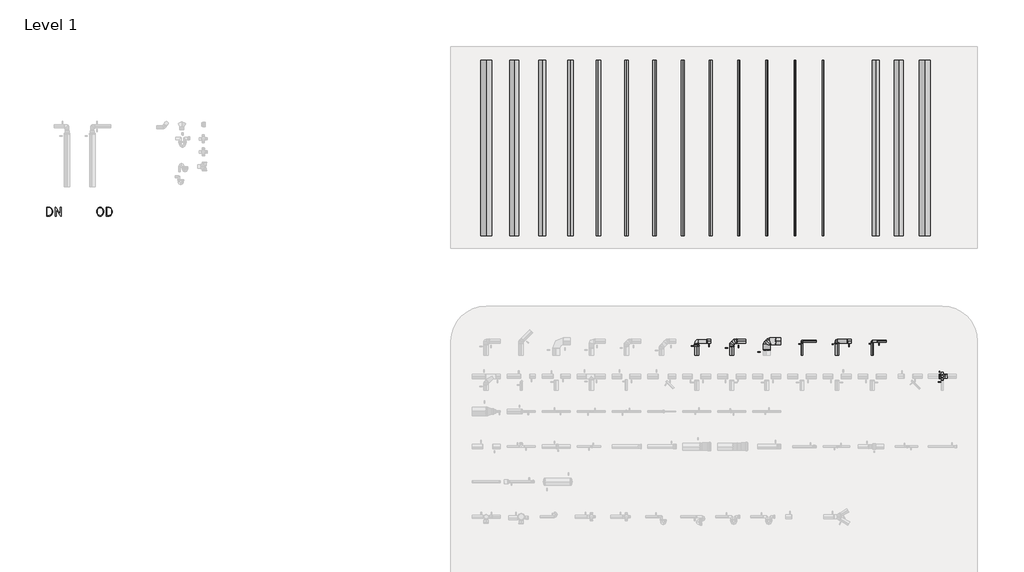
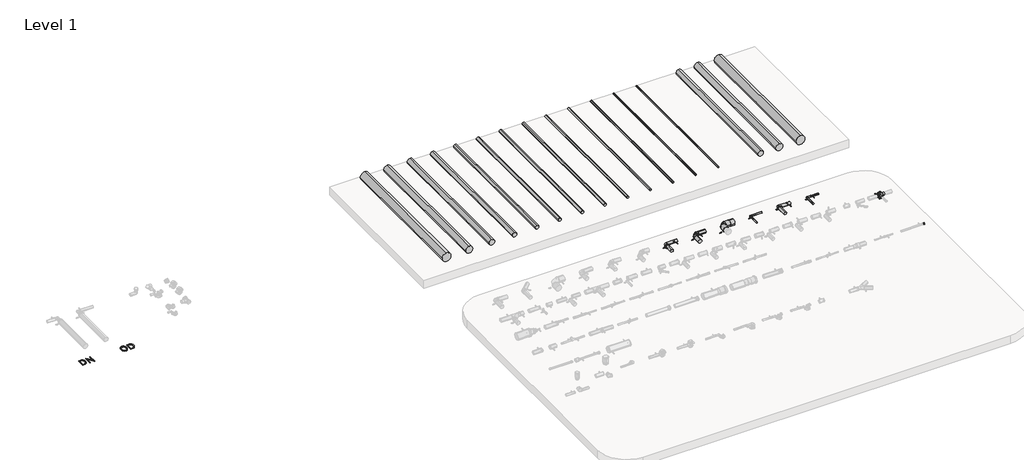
# One storey, part 6 of 6: 27 pipe segments, 23 pipe fittings, 2 proxies.
"""IFC4 building model written with IfcOpenShell, lengths in millimetres."""

from ifc_helpers import new_model, si_unit, point, frame, frame_2d, origin, origin_with_axes, place, context, project, spatial, polyline, circle_curve, trimmed, segment, composite_curve, outline, extrude, transform, mapped, element, save
from components import pipe_fitting_81bb528a, pipe_fitting_5bbf7105, var_f855ee73, var_2f964d50, var_6f643ae4, var_6e64f8e0, var_6ef94224, nested_do_not_use_0367c6a2, nested_do_not_use_355ab53d, nested_do_not_use_269007d1, nested_do_not_use_f1a46828, nested_do_not_use_c96243a7, nested_do_not_use_821c716b, welded_7e5780db, welded_b2ff7ccb, welded_75b1cb19, welded_dc74d5dd, welded_63566782, welded_ac007b25

model = new_model("IFC4")

# Units and contexts
model_context = context("Model", 3, world=origin())
ifc_project = project(units=[si_unit("LENGTHUNIT", "METRE", prefix="MILLI")], contexts=[model_context])

# Site, building, storey
site = spatial("IfcSite", under=ifc_project)
building = spatial("IfcBuilding", under=site)
storey = spatial("IfcBuildingStorey", under=building, Name="Level 1", Elevation=0.0)

# Proxies
placement = place(None, origin())
element("IfcBuildingElementProxy", 1, Name="250mm", ObjectType="250mm", at=placement, inside=storey, context=model_context, shape_type="SweptSolid", body=[
    extrude(outline(polyline([(-9692.1749272, 23938.8206285), (-9715.6755281, 23879.4741742), (-9740.4404019, 23854.6349314), (-9776.6581002, 23842.364048), (-9863.521081, 23842.364048), (-9863.521081, 24089.864048), (-9776.0631483, 24089.864048), (-9738.8042841, 24077.2956886), (-9714.8574692, 24052.9770287), (-9692.1749272, 23996.3822271), (-9692.1749272, 23938.8206285)]), holes=[polyline([(-9715.9730041, 23939.3412114), (-9715.9730041, 23996.0847511), (-9726.9052457, 24029.1045828), (-9737.8374873, 24050.3741141), (-9747.282349, 24060.1164518), (-9779.0379079, 24070.8255864), (-9839.7230041, 24070.8255864), (-9839.7230041, 23861.4025095), (-9779.7072288, 23861.4025095), (-9748.9928358, 23871.7397992), (-9738.8042841, 23881.9283509), (-9727.2027216, 23904.4621549), (-9715.9730041, 23939.3412114)])]), origin_with_axes(), (0.0, 0.0, 1.0), 20.0),
    extrude(outline(polyline([(-9444.6749272, 23842.364048), (-9455.8302757, 23842.364048), (-9592.2230041, 24040.7061453), (-9592.2230041, 23842.364048), (-9616.021081, 23842.364048), (-9616.021081, 24089.864048), (-9603.6758286, 24089.864048), (-9468.4730041, 23896.281566), (-9468.4730041, 24089.864048), (-9444.6749272, 24089.864048), (-9444.6749272, 23842.364048)])), origin_with_axes(), (0.0, 0.0, 1.0), 20.0),
])
element("IfcBuildingElementProxy", 2, Name="250mm", ObjectType="250mm", at=placement, inside=storey, context=model_context, shape_type="SweptSolid", body=[
    extrude(outline(polyline([(-8237.896081, 23939.2668424), (-8249.8694885, 23903.792834), (-8261.8428959, 23879.0279602), (-8285.9384488, 23854.8580384), (-8311.1495365, 23842.364048), (-8360.0099632, 23842.364048), (-8384.997944, 23854.7836694), (-8409.3909728, 23879.1023292), (-8421.1412733, 23903.792834), (-8433.0403118, 23939.0437355), (-8433.0403118, 23996.3822271), (-8421.3643803, 24030.0713797), (-8410.2090317, 24053.2745047), (-8386.8571687, 24076.9238436), (-8360.8280221, 24089.864048), (-8310.2571086, 24089.864048), (-8284.227962, 24076.9982126), (-8260.876099, 24053.2745047), (-8249.5720125, 24030.0713797), (-8237.896081, 23996.1591201), (-8237.896081, 23939.2668424)]), holes=[polyline([(-8261.6941579, 23937.8538316), (-8261.6941579, 23993.5562054), (-8272.4776615, 24025.3861333), (-8293.8959308, 24056.5467403), (-8325.1309067, 24066.809661), (-8345.954224, 24066.809661), (-8377.114831, 24056.5467403), (-8398.4587312, 24025.2373953), (-8409.2422349, 23993.7793124), (-8409.2422349, 23937.6307247), (-8397.9381483, 23903.718465), (-8375.6274512, 23871.4423232), (-8345.1361651, 23861.4025095), (-8323.122944, 23861.4025095), (-8295.4576796, 23871.3679542), (-8272.8495065, 23903.792834), (-8261.6941579, 23937.8538316)])]), origin_with_axes(), (0.0, 0.0, 1.0), 20.0),
    extrude(outline(polyline([(-7990.396081, 23938.8206285), (-8013.896682, 23879.4741742), (-8038.6615558, 23854.6349314), (-8074.8792541, 23842.364048), (-8161.7422349, 23842.364048), (-8161.7422349, 24089.864048), (-8074.2843022, 24089.864048), (-8037.025438, 24077.2956886), (-8013.0786231, 24052.9770287), (-7990.396081, 23996.3822271), (-7990.396081, 23938.8206285)]), holes=[polyline([(-8014.1941579, 23939.3412114), (-8014.1941579, 23996.0847511), (-8025.1263995, 24029.1045828), (-8036.0586411, 24050.3741141), (-8045.5035029, 24060.1164518), (-8077.2590618, 24070.8255864), (-8137.9441579, 24070.8255864), (-8137.9441579, 23861.4025095), (-8077.9283827, 23861.4025095), (-8047.2139897, 23871.7397992), (-8037.025438, 23881.9283509), (-8025.4238755, 23904.4621549), (-8014.1941579, 23939.3412114)])]), origin_with_axes(), (0.0, 0.0, 1.0), 20.0),
])

# Pipe fittings
pipe_fitting_shape = pipe_fitting_81bb528a(model_context)
element("IfcPipeFitting", 3, ObjectType="NLRS_52_PIF_UN_HDPE weld_Akatherm : ringseal or non-welded", at=placement, inside=storey, context=model_context, shape_type="MappedRepresentation", body=[
    mapped(pipe_fitting_shape, transform((12659.9781064, 20232.3274824, 200.0), x_axis=(0.0, -1.0, 0.0), y_axis=(1.0, 0.0, 0.0), z_axis=(0.0, 0.0, 1.0))),
])
element("IfcPipeFitting", 4, ObjectType="NLRS_52_PIF_UN_HDPE weld_Akatherm : ringseal or non-welded", at=placement, inside=storey, context=model_context, shape_type="MappedRepresentation", body=[
    mapped(pipe_fitting_shape, transform((15623.0781064, 19273.6274824, 200.0), x_axis=(-1.0, 0.0, 0.0), y_axis=(0.0, -1.0, 0.0), z_axis=(0.0, 0.0, 1.0))),
])
pipe_fitting_2_shape = pipe_fitting_5bbf7105(model_context)
element("IfcPipeFitting", 5, ObjectType="NLRS_52_PIF_UN_HDPE weld_Akatherm : ringseal or non-welded", at=placement, inside=storey, context=model_context, shape_type="MappedRepresentation", body=[
    mapped(pipe_fitting_2_shape, transform((13659.9781064, 20245.1274824, 200.0), x_axis=(0.0, -1.0, 0.0), y_axis=(1.0, 0.0, 0.0), z_axis=(0.0, 0.0, 1.0))),
])
var_shape = var_f855ee73(model_context)
element("IfcPipeFitting", 6, ObjectType="NLRS_52_PIF_UN_HDPE 4-way riser_Akatherm : Var.", at=placement, inside=storey, context=model_context, shape_type="MappedRepresentation", body=[
    mapped(var_shape, transform((15659.9781064, 19273.6274824, 200.0), x_axis=(-1.0, 0.0, 0.0), y_axis=(0.0, -1.0, 0.0), z_axis=(0.0, 0.0, 1.0))),
])
var_2_shape = var_2f964d50(model_context)
element("IfcPipeFitting", 7, ObjectType="NLRS_52_PIF_UN_HDPE assembled elbow 2x 45º_Akatherm : Var.", at=placement, inside=storey, context=model_context, shape_type="MappedRepresentation", body=[
    mapped(var_2_shape, transform((10659.9781064, 20273.6274824, 200.0), x_axis=(-1.0, 0.0, 0.0), y_axis=(0.0, -1.0, 0.0), z_axis=(0.0, 0.0, 1.0))),
])
var_3_shape = var_6f643ae4(model_context)
element("IfcPipeFitting", 8, ObjectType="NLRS_52_PIF_UN_HDPE floor lavatory bend_Akatherm : Var.", at=placement, inside=storey, context=model_context, shape_type="MappedRepresentation", body=[
    mapped(var_3_shape, transform((8659.9781064, 20273.6274824, 200.0), x_axis=(-1.0, 0.0, 0.0), y_axis=(0.0, -1.0, 0.0), z_axis=(0.0, 0.0, 1.0))),
])
var_4_shape = var_6e64f8e0(model_context)
element("IfcPipeFitting", 9, ObjectType="NLRS_52_PIF_UN_HDPE wall lavatory bend_Akatherm : Var.", at=placement, inside=storey, context=model_context, shape_type="MappedRepresentation", body=[
    mapped(var_4_shape, transform((12659.9781064, 20273.6274824, 200.0), x_axis=(-1.0, 0.0, 0.0), y_axis=(0.0, -1.0, 0.0), z_axis=(0.0, 0.0, 1.0))),
])
var_5_shape = var_6ef94224(model_context)
element("IfcPipeFitting", 10, ObjectType="NLRS_52_PIF_UN_HDPE wall urinal bend_Akatherm : Var.", at=placement, inside=storey, context=model_context, shape_type="MappedRepresentation", body=[
    mapped(var_5_shape, transform((13659.9781064, 20273.6274824, 200.0), x_axis=(-1.0, 0.0, 0.0), y_axis=(0.0, -1.0, 0.0), z_axis=(0.0, 0.0, 1.0))),
])
nested_do_not_use_shape = nested_do_not_use_0367c6a2(model_context)
element("IfcPipeFitting", 11, ObjectType="NLRS_52_PIF_UN_HDPE elbow for bend assembly -SH_Akatherm : nested, do not use", at=placement, inside=storey, context=model_context, shape_type="MappedRepresentation", body=[
    mapped(nested_do_not_use_shape, transform((9745.962291, 20273.6274824, 200.0), x_axis=(-1.0, 0.0, 0.0), y_axis=(0.0, -1.0, 0.0), z_axis=(0.0, 0.0, 1.0))),
])
nested_do_not_use_2_shape = nested_do_not_use_355ab53d(model_context)
element("IfcPipeFitting", 12, ObjectType="NLRS_52_PIF_UN_HDPE elbow for bend assembly -SH_Akatherm : nested, do not use", at=placement, inside=storey, context=model_context, shape_type="MappedRepresentation", body=[
    mapped(nested_do_not_use_2_shape, transform((9659.9781064, 20187.6432978, 200.0), x_axis=(0.0, 1.0, 0.0), y_axis=(-1.0, 0.0, 0.0), z_axis=(0.0, 0.0, 1.0))),
])
nested_do_not_use_3_shape = nested_do_not_use_269007d1(model_context)
element("IfcPipeFitting", 13, ObjectType="NLRS_52_PIF_UN_HDPE rubber sleeve -SH_Akatherm : nested, do not use", at=placement, inside=storey, context=model_context, shape_type="MappedRepresentation", body=[
    mapped(nested_do_not_use_3_shape, transform((11659.9781064, 20235.6274824, 200.0), x_axis=(0.0, -1.0000000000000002, 0.0), y_axis=(1.0000000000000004, 0.0, 0.0), z_axis=(0.0, 0.0, 1.0000000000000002))),
])
nested_do_not_use_4_shape = nested_do_not_use_f1a46828(model_context)
element("IfcPipeFitting", 14, ObjectType="NLRS_52_PIF_UN_HDPE trap connecting bend -SH_Akatherm : nested, do not use", at=placement, inside=storey, context=model_context, shape_type="MappedRepresentation", body=[
    mapped(nested_do_not_use_4_shape, transform((11659.9781064, 20273.6274824, 200.0), x_axis=(-1.0, 0.0, 0.0), y_axis=(0.0, -1.0, 0.0), z_axis=(0.0, 0.0, 1.0))),
])
nested_do_not_use_5_shape = nested_do_not_use_c96243a7(model_context)
element("IfcPipeFitting", 15, ObjectType="NLRS_52_PIF_UN_HDPE protective cap for plugin socket -SH_Akatherm : nested, do not use", at=placement, inside=storey, context=model_context, shape_type="MappedRepresentation", body=[
    mapped(nested_do_not_use_5_shape, transform((16068.9781064, 17273.6274824, 200.0), x_axis=(1.0, 0.0, 0.0), y_axis=(0.0, 1.0, 0.0), z_axis=(0.0, 0.0, 1.0))),
])
nested_do_not_use_6_shape = nested_do_not_use_821c716b(model_context)
element("IfcPipeFitting", 16, ObjectType="NLRS_52_PIF_UN_HDPE rubber seal -SH_Akatherm : nested, do not use", at=placement, inside=storey, context=model_context, shape_type="MappedRepresentation", body=[
    mapped(nested_do_not_use_6_shape, transform((8659.9781064, 20133.6274824, 200.0), x_axis=(0.0, -1.0, 0.0), y_axis=(1.0, 0.0, 0.0), z_axis=(0.0, 0.0, 1.0))),
])
welded_shape = welded_7e5780db(model_context)
element("IfcPipeFitting", 17, ObjectType="NLRS_52_PIF_UN_HDPE weld_Akatherm : welded", at=placement, inside=storey, context=model_context, shape_type="MappedRepresentation", body=[
    mapped(welded_shape, transform((9806.762291, 20273.6274824, 200.0), x_axis=(1.0, 0.0, 0.0), y_axis=(0.0, 1.0, 0.0), z_axis=(0.0, 0.0, 1.0))),
])
element("IfcPipeFitting", 18, ObjectType="NLRS_52_PIF_UN_HDPE weld_Akatherm : welded", at=placement, inside=storey, context=model_context, shape_type="MappedRepresentation", body=[
    mapped(welded_shape, transform((9659.9781064, 20126.8432978, 200.0), x_axis=(0.0, -1.0, 0.0), y_axis=(1.0, 0.0, 0.0), z_axis=(0.0, 0.0, 1.0))),
])
welded_2_shape = welded_b2ff7ccb(model_context)
element("IfcPipeFitting", 19, ObjectType="NLRS_52_PIF_UN_HDPE weld_Akatherm : welded", at=placement, inside=storey, context=model_context, shape_type="MappedRepresentation", body=[
    mapped(welded_2_shape, transform((10659.9781064, 20024.3274824, 200.0), x_axis=(0.0, -1.0, 0.0), y_axis=(1.0, 0.0, 0.0), z_axis=(0.0, 0.0, 1.0))),
])
welded_3_shape = welded_75b1cb19(model_context)
element("IfcPipeFitting", 20, ObjectType="NLRS_52_PIF_UN_HDPE weld_Akatherm : welded", at=placement, inside=storey, context=model_context, shape_type="MappedRepresentation", body=[
    mapped(welded_3_shape, transform((13805.2781064, 20273.6274824, 200.0), x_axis=(1.0, 0.0, 0.0), y_axis=(0.0, 1.0, 0.0), z_axis=(0.0, 0.0, 1.0))),
])
welded_4_shape = welded_dc74d5dd(model_context)
element("IfcPipeFitting", 21, ObjectType="NLRS_52_PIF_UN_HDPE weld_Akatherm : welded", at=placement, inside=storey, context=model_context, shape_type="MappedRepresentation", body=[
    mapped(welded_4_shape, transform((15659.9781064, 19163.5274824, 200.0), x_axis=(0.0, -1.0, 0.0), y_axis=(1.0, 0.0, 0.0), z_axis=(0.0, 0.0, 1.0))),
])
welded_5_shape = welded_63566782(model_context)
element("IfcPipeFitting", 22, ObjectType="NLRS_52_PIF_UN_HDPE weld_Akatherm : welded", at=placement, inside=storey, context=model_context, shape_type="MappedRepresentation", body=[
    mapped(welded_5_shape, transform((11659.9781064, 20247.6274824, 200.0), x_axis=(0.0, -1.0, 0.0), y_axis=(1.0, 0.0, 0.0), z_axis=(0.0, 0.0, 1.0))),
])
welded_6_shape = welded_ac007b25(model_context)
element("IfcPipeFitting", 23, ObjectType="NLRS_52_PIF_UN_HDPE weld_Akatherm : welded", at=placement, inside=storey, context=model_context, shape_type="MappedRepresentation", body=[
    mapped(welded_6_shape, transform((8956.2781064, 20273.6274824, 200.0), x_axis=(1.0, 0.0, 0.0), y_axis=(0.0, 1.0, 0.0), z_axis=(0.0, 0.0, 1.0))),
])
element("IfcPipeFitting", 24, ObjectType="NLRS_52_PIF_UN_HDPE weld_Akatherm : welded", at=placement, inside=storey, context=model_context, shape_type="MappedRepresentation", body=[
    mapped(welded_6_shape, transform((8659.9781064, 20188.6274824, 200.0), x_axis=(0.0, -1.0, 0.0), y_axis=(1.0, 0.0, 0.0), z_axis=(0.0, 0.0, 1.0))),
])
element("IfcPipeFitting", 25, ObjectType="NLRS_52_PIF_UN_HDPE weld_Akatherm : welded", at=placement, inside=storey, context=model_context, shape_type="MappedRepresentation", body=[
    mapped(welded_6_shape, transform((12956.2781064, 20273.6274824, 200.0), x_axis=(1.0, 0.0, 0.0), y_axis=(0.0, 1.0, 0.0), z_axis=(0.0, 0.0, 1.0))),
])

# Pipe segments
element("IfcPipeSegment", 26, ObjectType="NLRS_52_PI_HDPE buis (DN)_Akatherm", at=placement, inside=storey, context=model_context, shape_type="SweptSolid", body=[
    extrude(outline(composite_curve([segment(trimmed(circle_curve(frame_2d((0.0, 2659.9781064)), 157.5), [point((0.0, 2502.4781064))], [point((-157.5, 2659.9781064))], False, "CARTESIAN"), True, "CONTINUOUS"), segment(trimmed(circle_curve(frame_2d((0.0, 2659.9781064)), 157.5), [point((-157.5, 2659.9781064))], [point((0.0, 2817.4781064))], False, "CARTESIAN"), True, "CONTINUOUS"), segment(trimmed(circle_curve(frame_2d((0.0, 2659.9781064)), 157.5), [point((0.0, 2817.4781064))], [point((157.5, 2659.9781064))], False, "CARTESIAN"), True, "CONTINUOUS"), segment(trimmed(circle_curve(frame_2d((0.0, 2659.9781064)), 157.5), [point((157.5, 2659.9781064))], [point((0.0, 2502.4781064))], False, "CARTESIAN"), True, "CONTINUOUS")], self_intersect=False)), frame((0.0, 23273.6274824, 0.0), z_axis=(0.0, 1.0, 0.0), x_axis=(0.0, 0.0, 1.0)), (0.0, 0.0, 1.0), 5000.0),
])
element("IfcPipeSegment", 27, ObjectType="NLRS_52_PI_HDPE buis (DN)_Akatherm", at=placement, inside=storey, context=model_context, shape_type="SweptSolid", body=[
    extrude(outline(composite_curve([segment(trimmed(circle_curve(frame_2d((0.0, 3459.9781064)), 125.0), [point((0.0, 3334.9781064))], [point((-125.0, 3459.9781064))], False, "CARTESIAN"), True, "CONTINUOUS"), segment(trimmed(circle_curve(frame_2d((0.0, 3459.9781064)), 125.0), [point((-125.0, 3459.9781064))], [point((0.0, 3584.9781064))], False, "CARTESIAN"), True, "CONTINUOUS"), segment(trimmed(circle_curve(frame_2d((0.0, 3459.9781064)), 125.0), [point((0.0, 3584.9781064))], [point((125.0, 3459.9781064))], False, "CARTESIAN"), True, "CONTINUOUS"), segment(trimmed(circle_curve(frame_2d((0.0, 3459.9781064)), 125.0), [point((125.0, 3459.9781064))], [point((0.0, 3334.9781064))], False, "CARTESIAN"), True, "CONTINUOUS")], self_intersect=False)), frame((0.0, 23273.6274824, 0.0), z_axis=(0.0, 1.0, 0.0), x_axis=(0.0, 0.0, 1.0)), (0.0, 0.0, 1.0), 5000.0),
])
element("IfcPipeSegment", 28, ObjectType="NLRS_52_PI_HDPE buis (DN)_Akatherm", at=placement, inside=storey, context=model_context, shape_type="SweptSolid", body=[
    extrude(outline(composite_curve([segment(trimmed(circle_curve(frame_2d((0.0, 4259.9781064)), 100.0), [point((0.0, 4159.9781064))], [point((-100.0, 4259.9781064))], False, "CARTESIAN"), True, "CONTINUOUS"), segment(trimmed(circle_curve(frame_2d((0.0, 4259.9781064)), 100.0), [point((-100.0, 4259.9781064))], [point((0.0, 4359.9781064))], False, "CARTESIAN"), True, "CONTINUOUS"), segment(trimmed(circle_curve(frame_2d((0.0, 4259.9781064)), 100.0), [point((0.0, 4359.9781064))], [point((100.0, 4259.9781064))], False, "CARTESIAN"), True, "CONTINUOUS"), segment(trimmed(circle_curve(frame_2d((0.0, 4259.9781064)), 100.0), [point((100.0, 4259.9781064))], [point((0.0, 4159.9781064))], False, "CARTESIAN"), True, "CONTINUOUS")], self_intersect=False)), frame((0.0, 23273.6274824, 0.0), z_axis=(0.0, 1.0, 0.0), x_axis=(0.0, 0.0, 1.0)), (0.0, 0.0, 1.0), 5000.0),
])
element("IfcPipeSegment", 29, ObjectType="NLRS_52_PI_HDPE buis (DN)_Akatherm", at=placement, inside=storey, context=model_context, shape_type="SweptSolid", body=[
    extrude(outline(composite_curve([segment(trimmed(circle_curve(frame_2d((0.0, 5059.9781064)), 80.0), [point((0.0, 4979.9781064))], [point((-80.0, 5059.9781064))], False, "CARTESIAN"), True, "CONTINUOUS"), segment(trimmed(circle_curve(frame_2d((0.0, 5059.9781064)), 80.0), [point((-80.0, 5059.9781064))], [point((0.0, 5139.9781064))], False, "CARTESIAN"), True, "CONTINUOUS"), segment(trimmed(circle_curve(frame_2d((0.0, 5059.9781064)), 80.0), [point((0.0, 5139.9781064))], [point((80.0, 5059.9781064))], False, "CARTESIAN"), True, "CONTINUOUS"), segment(trimmed(circle_curve(frame_2d((0.0, 5059.9781064)), 80.0), [point((80.0, 5059.9781064))], [point((0.0, 4979.9781064))], False, "CARTESIAN"), True, "CONTINUOUS")], self_intersect=False)), frame((0.0, 23273.6274824, 0.0), z_axis=(0.0, 1.0, 0.0), x_axis=(0.0, 0.0, 1.0)), (0.0, 0.0, 1.0), 5000.0),
])
element("IfcPipeSegment", 30, ObjectType="NLRS_52_PI_HDPE buis (DN)_Akatherm", at=placement, inside=storey, context=model_context, shape_type="SweptSolid", body=[
    extrude(outline(composite_curve([segment(trimmed(circle_curve(frame_2d((0.0, 5859.9781064)), 62.5), [point((0.0, 5797.4781064))], [point((-62.5, 5859.9781064))], False, "CARTESIAN"), True, "CONTINUOUS"), segment(trimmed(circle_curve(frame_2d((0.0, 5859.9781064)), 62.5), [point((-62.5, 5859.9781064))], [point((0.0, 5922.4781064))], False, "CARTESIAN"), True, "CONTINUOUS"), segment(trimmed(circle_curve(frame_2d((0.0, 5859.9781064)), 62.5), [point((0.0, 5922.4781064))], [point((62.5, 5859.9781064))], False, "CARTESIAN"), True, "CONTINUOUS"), segment(trimmed(circle_curve(frame_2d((0.0, 5859.9781064)), 62.5), [point((62.5, 5859.9781064))], [point((0.0, 5797.4781064))], False, "CARTESIAN"), True, "CONTINUOUS")], self_intersect=False)), frame((0.0, 23273.6274824, 0.0), z_axis=(0.0, 1.0, 0.0), x_axis=(0.0, 0.0, 1.0)), (0.0, 0.0, 1.0), 5000.0),
])
element("IfcPipeSegment", 31, ObjectType="NLRS_52_PI_HDPE buis (DN)_Akatherm", at=placement, inside=storey, context=model_context, shape_type="SweptSolid", body=[
    extrude(outline(composite_curve([segment(trimmed(circle_curve(frame_2d((0.0, 6659.9781064)), 55.0), [point((0.0, 6604.9781064))], [point((-55.0, 6659.9781064))], False, "CARTESIAN"), True, "CONTINUOUS"), segment(trimmed(circle_curve(frame_2d((0.0, 6659.9781064)), 55.0), [point((-55.0, 6659.9781064))], [point((0.0, 6714.9781064))], False, "CARTESIAN"), True, "CONTINUOUS"), segment(trimmed(circle_curve(frame_2d((0.0, 6659.9781064)), 55.0), [point((0.0, 6714.9781064))], [point((55.0, 6659.9781064))], False, "CARTESIAN"), True, "CONTINUOUS"), segment(trimmed(circle_curve(frame_2d((0.0, 6659.9781064)), 55.0), [point((55.0, 6659.9781064))], [point((0.0, 6604.9781064))], False, "CARTESIAN"), True, "CONTINUOUS")], self_intersect=False)), frame((0.0, 23273.6274824, 0.0), z_axis=(0.0, 1.0, 0.0), x_axis=(0.0, 0.0, 1.0)), (0.0, 0.0, 1.0), 5000.0),
])
element("IfcPipeSegment", 32, ObjectType="NLRS_52_PI_HDPE buis (DN)_Akatherm", at=placement, inside=storey, context=model_context, shape_type="SweptSolid", body=[
    extrude(outline(composite_curve([segment(trimmed(circle_curve(frame_2d((0.0, 8259.9781064)), 45.0), [point((0.0, 8214.9781064))], [point((-45.0, 8259.9781064))], False, "CARTESIAN"), True, "CONTINUOUS"), segment(trimmed(circle_curve(frame_2d((0.0, 8259.9781064)), 45.0), [point((-45.0, 8259.9781064))], [point((0.0, 8304.9781064))], False, "CARTESIAN"), True, "CONTINUOUS"), segment(trimmed(circle_curve(frame_2d((0.0, 8259.9781064)), 45.0), [point((0.0, 8304.9781064))], [point((45.0, 8259.9781064))], False, "CARTESIAN"), True, "CONTINUOUS"), segment(trimmed(circle_curve(frame_2d((0.0, 8259.9781064)), 45.0), [point((45.0, 8259.9781064))], [point((0.0, 8214.9781064))], False, "CARTESIAN"), True, "CONTINUOUS")], self_intersect=False)), frame((0.0, 23273.6274824, 0.0), z_axis=(0.0, 1.0, 0.0), x_axis=(0.0, 0.0, 1.0)), (0.0, 0.0, 1.0), 5000.0),
])
element("IfcPipeSegment", 33, ObjectType="NLRS_52_PI_HDPE buis (DN)_Akatherm", at=placement, inside=storey, context=model_context, shape_type="SweptSolid", body=[
    extrude(outline(composite_curve([segment(trimmed(circle_curve(frame_2d((0.0, 9059.9781064)), 37.5), [point((0.0, 9022.4781064))], [point((-37.5, 9059.9781064))], False, "CARTESIAN"), True, "CONTINUOUS"), segment(trimmed(circle_curve(frame_2d((0.0, 9059.9781064)), 37.5), [point((-37.5, 9059.9781064))], [point((0.0, 9097.4781064))], False, "CARTESIAN"), True, "CONTINUOUS"), segment(trimmed(circle_curve(frame_2d((0.0, 9059.9781064)), 37.5), [point((0.0, 9097.4781064))], [point((37.5, 9059.9781064))], False, "CARTESIAN"), True, "CONTINUOUS"), segment(trimmed(circle_curve(frame_2d((0.0, 9059.9781064)), 37.5), [point((37.5, 9059.9781064))], [point((0.0, 9022.4781064))], False, "CARTESIAN"), True, "CONTINUOUS")], self_intersect=False)), frame((0.0, 23273.6274824, 0.0), z_axis=(0.0, 1.0, 0.0), x_axis=(0.0, 0.0, 1.0)), (0.0, 0.0, 1.0), 5000.0),
])
element("IfcPipeSegment", 34, ObjectType="NLRS_52_PI_HDPE buis (DN)_Akatherm", at=placement, inside=storey, context=model_context, shape_type="SweptSolid", body=[
    extrude(outline(composite_curve([segment(trimmed(circle_curve(frame_2d((0.0, 9859.9781064)), 31.5), [point((0.0, 9828.4781064))], [point((-31.5, 9859.9781064))], False, "CARTESIAN"), True, "CONTINUOUS"), segment(trimmed(circle_curve(frame_2d((0.0, 9859.9781064)), 31.5), [point((-31.5, 9859.9781064))], [point((0.0, 9891.4781064))], False, "CARTESIAN"), True, "CONTINUOUS"), segment(trimmed(circle_curve(frame_2d((0.0, 9859.9781064)), 31.5), [point((0.0, 9891.4781064))], [point((31.5, 9859.9781064))], False, "CARTESIAN"), True, "CONTINUOUS"), segment(trimmed(circle_curve(frame_2d((0.0, 9859.9781064)), 31.5), [point((31.5, 9859.9781064))], [point((0.0, 9828.4781064))], False, "CARTESIAN"), True, "CONTINUOUS")], self_intersect=False)), frame((0.0, 23273.6274824, 0.0), z_axis=(0.0, 1.0, 0.0), x_axis=(0.0, 0.0, 1.0)), (0.0, 0.0, 1.0), 5000.0),
])
element("IfcPipeSegment", 35, ObjectType="NLRS_52_PI_HDPE buis (DN)_Akatherm", at=placement, inside=storey, context=model_context, shape_type="SweptSolid", body=[
    extrude(outline(composite_curve([segment(trimmed(circle_curve(frame_2d((0.0, 10659.9781064)), 28.0), [point((0.0, 10631.9781064))], [point((-28.0, 10659.9781064))], False, "CARTESIAN"), True, "CONTINUOUS"), segment(trimmed(circle_curve(frame_2d((0.0, 10659.9781064)), 28.0), [point((-28.0, 10659.9781064))], [point((0.0, 10687.9781064))], False, "CARTESIAN"), True, "CONTINUOUS"), segment(trimmed(circle_curve(frame_2d((0.0, 10659.9781064)), 28.0), [point((0.0, 10687.9781064))], [point((28.0, 10659.9781064))], False, "CARTESIAN"), True, "CONTINUOUS"), segment(trimmed(circle_curve(frame_2d((0.0, 10659.9781064)), 28.0), [point((28.0, 10659.9781064))], [point((0.0, 10631.9781064))], False, "CARTESIAN"), True, "CONTINUOUS")], self_intersect=False)), frame((0.0, 23273.6274824, 0.0), z_axis=(0.0, 1.0, 0.0), x_axis=(0.0, 0.0, 1.0)), (0.0, 0.0, 1.0), 5000.0),
])
element("IfcPipeSegment", 36, ObjectType="NLRS_52_PI_HDPE buis (DN)_Akatherm", at=placement, inside=storey, context=model_context, shape_type="SweptSolid", body=[
    extrude(outline(composite_curve([segment(trimmed(circle_curve(frame_2d((0.0, 11459.9781064)), 25.0), [point((0.0, 11434.9781064))], [point((-25.0, 11459.9781064))], False, "CARTESIAN"), True, "CONTINUOUS"), segment(trimmed(circle_curve(frame_2d((0.0, 11459.9781064)), 25.0), [point((-25.0, 11459.9781064))], [point((0.0, 11484.9781064))], False, "CARTESIAN"), True, "CONTINUOUS"), segment(trimmed(circle_curve(frame_2d((0.0, 11459.9781064)), 25.0), [point((0.0, 11484.9781064))], [point((25.0, 11459.9781064))], False, "CARTESIAN"), True, "CONTINUOUS"), segment(trimmed(circle_curve(frame_2d((0.0, 11459.9781064)), 25.0), [point((25.0, 11459.9781064))], [point((0.0, 11434.9781064))], False, "CARTESIAN"), True, "CONTINUOUS")], self_intersect=False)), frame((0.0, 23273.6274824, 0.0), z_axis=(0.0, 1.0, 0.0), x_axis=(0.0, 0.0, 1.0)), (0.0, 0.0, 1.0), 5000.0),
])
element("IfcPipeSegment", 37, ObjectType="NLRS_52_PI_HDPE buis (DN)_Akatherm", at=placement, inside=storey, context=model_context, shape_type="SweptSolid", body=[
    extrude(outline(composite_curve([segment(trimmed(circle_curve(frame_2d((0.0, 12259.9781064)), 20.0), [point((0.0, 12239.9781064))], [point((-20.0, 12259.9781064))], False, "CARTESIAN"), True, "CONTINUOUS"), segment(trimmed(circle_curve(frame_2d((0.0, 12259.9781064)), 20.0), [point((-20.0, 12259.9781064))], [point((0.0, 12279.9781064))], False, "CARTESIAN"), True, "CONTINUOUS"), segment(trimmed(circle_curve(frame_2d((0.0, 12259.9781064)), 20.0), [point((0.0, 12279.9781064))], [point((20.0, 12259.9781064))], False, "CARTESIAN"), True, "CONTINUOUS"), segment(trimmed(circle_curve(frame_2d((0.0, 12259.9781064)), 20.0), [point((20.0, 12259.9781064))], [point((0.0, 12239.9781064))], False, "CARTESIAN"), True, "CONTINUOUS")], self_intersect=False)), frame((0.0, 23273.6274824, 0.0), z_axis=(0.0, 1.0, 0.0), x_axis=(0.0, 0.0, 1.0)), (0.0, 0.0, 1.0), 5000.0),
])
element("IfcPipeSegment", 38, ObjectType="NLRS_52_PI_HDPE buis (DN)_Akatherm", at=placement, inside=storey, context=model_context, shape_type="SweptSolid", body=[
    extrude(outline(composite_curve([segment(trimmed(circle_curve(frame_2d((0.0, 15159.9781064)), 157.5), [point((0.0, 15002.4781064))], [point((-157.5, 15159.9781064))], False, "CARTESIAN"), True, "CONTINUOUS"), segment(trimmed(circle_curve(frame_2d((0.0, 15159.9781064)), 157.5), [point((-157.5, 15159.9781064))], [point((0.0, 15317.4781064))], False, "CARTESIAN"), True, "CONTINUOUS"), segment(trimmed(circle_curve(frame_2d((0.0, 15159.9781064)), 157.5), [point((0.0, 15317.4781064))], [point((157.5, 15159.9781064))], False, "CARTESIAN"), True, "CONTINUOUS"), segment(trimmed(circle_curve(frame_2d((0.0, 15159.9781064)), 157.5), [point((157.5, 15159.9781064))], [point((0.0, 15002.4781064))], False, "CARTESIAN"), True, "CONTINUOUS")], self_intersect=False)), frame((0.0, 23273.6274824, 0.0), z_axis=(0.0, 1.0, 0.0), x_axis=(0.0, 0.0, 1.0)), (0.0, 0.0, 1.0), 5000.0),
])
element("IfcPipeSegment", 39, ObjectType="NLRS_52_PI_HDPE buis (DN)_Akatherm", at=placement, inside=storey, context=model_context, shape_type="SweptSolid", body=[
    extrude(outline(composite_curve([segment(trimmed(circle_curve(frame_2d((0.0, 14418.261571)), 125.0), [point((0.0, 14293.261571))], [point((-125.0, 14418.261571))], False, "CARTESIAN"), True, "CONTINUOUS"), segment(trimmed(circle_curve(frame_2d((0.0, 14418.261571)), 125.0), [point((-125.0, 14418.261571))], [point((0.0, 14543.261571))], False, "CARTESIAN"), True, "CONTINUOUS"), segment(trimmed(circle_curve(frame_2d((0.0, 14418.261571)), 125.0), [point((0.0, 14543.261571))], [point((125.0, 14418.261571))], False, "CARTESIAN"), True, "CONTINUOUS"), segment(trimmed(circle_curve(frame_2d((0.0, 14418.261571)), 125.0), [point((125.0, 14418.261571))], [point((0.0, 14293.261571))], False, "CARTESIAN"), True, "CONTINUOUS")], self_intersect=False)), frame((0.0, 23273.6274824, 0.0), z_axis=(0.0, 1.0, 0.0), x_axis=(0.0, 0.0, 1.0)), (0.0, 0.0, 1.0), 5000.0),
])
element("IfcPipeSegment", 40, ObjectType="NLRS_52_PI_HDPE buis (DN)_Akatherm", at=placement, inside=storey, context=model_context, shape_type="SweptSolid", body=[
    extrude(outline(composite_curve([segment(trimmed(circle_curve(frame_2d((0.0, 13755.6678277)), 100.0), [point((0.0, 13655.6678277))], [point((-100.0, 13755.6678277))], False, "CARTESIAN"), True, "CONTINUOUS"), segment(trimmed(circle_curve(frame_2d((0.0, 13755.6678277)), 100.0), [point((-100.0, 13755.6678277))], [point((0.0, 13855.6678277))], False, "CARTESIAN"), True, "CONTINUOUS"), segment(trimmed(circle_curve(frame_2d((0.0, 13755.6678277)), 100.0), [point((0.0, 13855.6678277))], [point((100.0, 13755.6678277))], False, "CARTESIAN"), True, "CONTINUOUS"), segment(trimmed(circle_curve(frame_2d((0.0, 13755.6678277)), 100.0), [point((100.0, 13755.6678277))], [point((0.0, 13655.6678277))], False, "CARTESIAN"), True, "CONTINUOUS")], self_intersect=False)), frame((0.0, 23273.6274824, 0.0), z_axis=(0.0, 1.0, 0.0), x_axis=(0.0, 0.0, 1.0)), (0.0, 0.0, 1.0), 5000.0),
])
element("IfcPipeSegment", 41, ObjectType="NLRS_52_PI_HDPE buis (DN)_Akatherm", at=placement, inside=storey, context=model_context, shape_type="SweptSolid", body=[
    extrude(outline(composite_curve([segment(trimmed(circle_curve(frame_2d((0.0, 7459.9781064)), 55.0), [point((0.0, 7404.9781064))], [point((-55.0, 7459.9781064))], False, "CARTESIAN"), True, "CONTINUOUS"), segment(trimmed(circle_curve(frame_2d((0.0, 7459.9781064)), 55.0), [point((-55.0, 7459.9781064))], [point((0.0, 7514.9781064))], False, "CARTESIAN"), True, "CONTINUOUS"), segment(trimmed(circle_curve(frame_2d((0.0, 7459.9781064)), 55.0), [point((0.0, 7514.9781064))], [point((55.0, 7459.9781064))], False, "CARTESIAN"), True, "CONTINUOUS"), segment(trimmed(circle_curve(frame_2d((0.0, 7459.9781064)), 55.0), [point((55.0, 7459.9781064))], [point((0.0, 7404.9781064))], False, "CARTESIAN"), True, "CONTINUOUS")], self_intersect=False)), frame((0.0, 23273.6274824, 0.0), z_axis=(0.0, 1.0, 0.0), x_axis=(0.0, 0.0, 1.0)), (0.0, 0.0, 1.0), 5000.0),
])
element("IfcPipeSegment", 42, ObjectType="NLRS_52_PI_HDPE buis (DN)_Akatherm", at=placement, inside=storey, context=model_context, shape_type="SweptSolid", body=[
    extrude(outline(composite_curve([segment(trimmed(circle_curve(frame_2d((200.0, 8659.9781064)), 55.0), [point((200.0, 8604.9781064))], [point((145.0, 8659.9781064))], False, "CARTESIAN"), True, "CONTINUOUS"), segment(trimmed(circle_curve(frame_2d((200.0, 8659.9781064)), 55.0), [point((145.0, 8659.9781064))], [point((200.0, 8714.9781064))], False, "CARTESIAN"), True, "CONTINUOUS"), segment(trimmed(circle_curve(frame_2d((200.0, 8659.9781064)), 55.0), [point((200.0, 8714.9781064))], [point((255.0, 8659.9781064))], False, "CARTESIAN"), True, "CONTINUOUS"), segment(trimmed(circle_curve(frame_2d((200.0, 8659.9781064)), 55.0), [point((255.0, 8659.9781064))], [point((200.0, 8604.9781064))], False, "CARTESIAN"), True, "CONTINUOUS")], self_intersect=False)), frame((0.0, 19873.6274824, 0.0), z_axis=(0.0, 1.0, 0.0), x_axis=(0.0, 0.0, 1.0)), (0.0, 0.0, 1.0), 318.7),
])
element("IfcPipeSegment", 43, ObjectType="NLRS_52_PI_HDPE buis (DN)_Akatherm", at=placement, inside=storey, context=model_context, shape_type="SweptSolid", body=[
    extrude(outline(composite_curve([segment(trimmed(circle_curve(frame_2d((20273.6274824, 200.0)), 55.0), [point((20218.6274824, 200.0))], [point((20273.6274824, 255.0))], False, "CARTESIAN"), True, "CONTINUOUS"), segment(trimmed(circle_curve(frame_2d((20273.6274824, 200.0)), 55.0), [point((20273.6274824, 255.0))], [point((20328.6274824, 200.0))], False, "CARTESIAN"), True, "CONTINUOUS"), segment(trimmed(circle_curve(frame_2d((20273.6274824, 200.0)), 55.0), [point((20328.6274824, 200.0))], [point((20273.6274824, 145.0))], False, "CARTESIAN"), True, "CONTINUOUS"), segment(trimmed(circle_curve(frame_2d((20273.6274824, 200.0)), 55.0), [point((20273.6274824, 145.0))], [point((20218.6274824, 200.0))], False, "CARTESIAN"), True, "CONTINUOUS")], self_intersect=False)), frame((8952.5781064, 0.0, 0.0), z_axis=(1.0, 0.0, 0.0), x_axis=(0.0, 1.0, 0.0)), (0.0, 0.0, 1.0), 107.4),
])
element("IfcPipeSegment", 44, ObjectType="NLRS_52_PI_HDPE buis (DN)_Akatherm", at=placement, inside=storey, context=model_context, shape_type="SweptSolid", body=[
    extrude(outline(composite_curve([segment(trimmed(circle_curve(frame_2d((200.0, 9659.9781064)), 62.5), [point((200.0, 9597.4781064))], [point((137.5, 9659.9781064))], False, "CARTESIAN"), True, "CONTINUOUS"), segment(trimmed(circle_curve(frame_2d((200.0, 9659.9781064)), 62.5), [point((137.5, 9659.9781064))], [point((200.0, 9722.4781064))], False, "CARTESIAN"), True, "CONTINUOUS"), segment(trimmed(circle_curve(frame_2d((200.0, 9659.9781064)), 62.5), [point((200.0, 9722.4781064))], [point((262.5, 9659.9781064))], False, "CARTESIAN"), True, "CONTINUOUS"), segment(trimmed(circle_curve(frame_2d((200.0, 9659.9781064)), 62.5), [point((262.5, 9659.9781064))], [point((200.0, 9597.4781064))], False, "CARTESIAN"), True, "CONTINUOUS")], self_intersect=False)), frame((0.0, 19873.6274824, 0.0), z_axis=(0.0, 1.0, 0.0), x_axis=(0.0, 0.0, 1.0)), (0.0, 0.0, 1.0), 257.4158154),
])
element("IfcPipeSegment", 45, ObjectType="NLRS_52_PI_HDPE buis (DN)_Akatherm", at=placement, inside=storey, context=model_context, shape_type="SweptSolid", body=[
    extrude(outline(composite_curve([segment(trimmed(circle_curve(frame_2d((20273.6274824, 200.0)), 62.5), [point((20211.1274824, 200.0))], [point((20273.6274824, 262.5))], False, "CARTESIAN"), True, "CONTINUOUS"), segment(trimmed(circle_curve(frame_2d((20273.6274824, 200.0)), 62.5), [point((20273.6274824, 262.5))], [point((20336.1274824, 200.0))], False, "CARTESIAN"), True, "CONTINUOUS"), segment(trimmed(circle_curve(frame_2d((20273.6274824, 200.0)), 62.5), [point((20336.1274824, 200.0))], [point((20273.6274824, 137.5))], False, "CARTESIAN"), True, "CONTINUOUS"), segment(trimmed(circle_curve(frame_2d((20273.6274824, 200.0)), 62.5), [point((20273.6274824, 137.5))], [point((20211.1274824, 200.0))], False, "CARTESIAN"), True, "CONTINUOUS")], self_intersect=False)), frame((9802.562291, 0.0, 0.0), z_axis=(1.0, 0.0, 0.0), x_axis=(0.0, 1.0, 0.0)), (0.0, 0.0, 1.0), 257.4158154),
])
element("IfcPipeSegment", 46, ObjectType="NLRS_52_PI_HDPE buis (DN)_Akatherm", at=placement, inside=storey, context=model_context, shape_type="SweptSolid", body=[
    extrude(outline(composite_curve([segment(trimmed(circle_curve(frame_2d((20273.6274824, 200.0)), 100.0), [point((20173.6274824, 200.0))], [point((20273.6274824, 300.0))], False, "CARTESIAN"), True, "CONTINUOUS"), segment(trimmed(circle_curve(frame_2d((20273.6274824, 200.0)), 100.0), [point((20273.6274824, 300.0))], [point((20373.6274824, 200.0))], False, "CARTESIAN"), True, "CONTINUOUS"), segment(trimmed(circle_curve(frame_2d((20273.6274824, 200.0)), 100.0), [point((20373.6274824, 200.0))], [point((20273.6274824, 100.0))], False, "CARTESIAN"), True, "CONTINUOUS"), segment(trimmed(circle_curve(frame_2d((20273.6274824, 200.0)), 100.0), [point((20273.6274824, 100.0))], [point((20173.6274824, 200.0))], False, "CARTESIAN"), True, "CONTINUOUS")], self_intersect=False)), frame((10905.5781064, 0.0, 0.0), z_axis=(1.0, 0.0, 0.0), x_axis=(0.0, 1.0, 0.0)), (0.0, 0.0, 1.0), 154.4),
])
element("IfcPipeSegment", 47, ObjectType="NLRS_52_PI_HDPE buis (DN)_Akatherm", at=placement, inside=storey, context=model_context, shape_type="SweptSolid", body=[
    extrude(outline(composite_curve([segment(trimmed(circle_curve(frame_2d((200.0, 11659.9781064)), 20.0), [point((200.0, 11639.9781064))], [point((180.0, 11659.9781064))], False, "CARTESIAN"), True, "CONTINUOUS"), segment(trimmed(circle_curve(frame_2d((200.0, 11659.9781064)), 20.0), [point((180.0, 11659.9781064))], [point((200.0, 11679.9781064))], False, "CARTESIAN"), True, "CONTINUOUS"), segment(trimmed(circle_curve(frame_2d((200.0, 11659.9781064)), 20.0), [point((200.0, 11679.9781064))], [point((220.0, 11659.9781064))], False, "CARTESIAN"), True, "CONTINUOUS"), segment(trimmed(circle_curve(frame_2d((200.0, 11659.9781064)), 20.0), [point((220.0, 11659.9781064))], [point((200.0, 11639.9781064))], False, "CARTESIAN"), True, "CONTINUOUS")], self_intersect=False)), frame((0.0, 19873.6274824, 0.0), z_axis=(0.0, 1.0, 0.0), x_axis=(0.0, 0.0, 1.0)), (0.0, 0.0, 1.0), 375.7),
])
element("IfcPipeSegment", 48, ObjectType="NLRS_52_PI_HDPE buis (DN)_Akatherm", at=placement, inside=storey, context=model_context, shape_type="SweptSolid", body=[
    extrude(outline(composite_curve([segment(trimmed(circle_curve(frame_2d((20273.6274824, 200.0)), 25.0), [point((20248.6274824, 200.0))], [point((20273.6274824, 225.0))], False, "CARTESIAN"), True, "CONTINUOUS"), segment(trimmed(circle_curve(frame_2d((20273.6274824, 200.0)), 25.0), [point((20273.6274824, 225.0))], [point((20298.6274824, 200.0))], False, "CARTESIAN"), True, "CONTINUOUS"), segment(trimmed(circle_curve(frame_2d((20273.6274824, 200.0)), 25.0), [point((20298.6274824, 200.0))], [point((20273.6274824, 175.0))], False, "CARTESIAN"), True, "CONTINUOUS"), segment(trimmed(circle_curve(frame_2d((20273.6274824, 200.0)), 25.0), [point((20273.6274824, 175.0))], [point((20248.6274824, 200.0))], False, "CARTESIAN"), True, "CONTINUOUS")], self_intersect=False)), frame((11703.2781064, 0.0, 0.0), z_axis=(1.0, 0.0, 0.0), x_axis=(0.0, 1.0, 0.0)), (0.0, 0.0, 1.0), 356.7),
])
element("IfcPipeSegment", 49, ObjectType="NLRS_52_PI_HDPE buis (DN)_Akatherm", at=placement, inside=storey, context=model_context, shape_type="SweptSolid", body=[
    extrude(outline(composite_curve([segment(trimmed(circle_curve(frame_2d((200.0, 12659.9781064)), 55.0), [point((200.0, 12604.9781064))], [point((145.0, 12659.9781064))], False, "CARTESIAN"), True, "CONTINUOUS"), segment(trimmed(circle_curve(frame_2d((200.0, 12659.9781064)), 55.0), [point((145.0, 12659.9781064))], [point((200.0, 12714.9781064))], False, "CARTESIAN"), True, "CONTINUOUS"), segment(trimmed(circle_curve(frame_2d((200.0, 12659.9781064)), 55.0), [point((200.0, 12714.9781064))], [point((255.0, 12659.9781064))], False, "CARTESIAN"), True, "CONTINUOUS"), segment(trimmed(circle_curve(frame_2d((200.0, 12659.9781064)), 55.0), [point((255.0, 12659.9781064))], [point((200.0, 12604.9781064))], False, "CARTESIAN"), True, "CONTINUOUS")], self_intersect=False)), frame((0.0, 19873.6274824, 0.0), z_axis=(0.0, 1.0, 0.0), x_axis=(0.0, 0.0, 1.0)), (0.0, 0.0, 1.0), 358.7),
])
element("IfcPipeSegment", 50, ObjectType="NLRS_52_PI_HDPE buis (DN)_Akatherm", at=placement, inside=storey, context=model_context, shape_type="SweptSolid", body=[
    extrude(outline(composite_curve([segment(trimmed(circle_curve(frame_2d((20273.6274824, 200.0)), 55.0), [point((20218.6274824, 200.0))], [point((20273.6274824, 255.0))], False, "CARTESIAN"), True, "CONTINUOUS"), segment(trimmed(circle_curve(frame_2d((20273.6274824, 200.0)), 55.0), [point((20273.6274824, 255.0))], [point((20328.6274824, 200.0))], False, "CARTESIAN"), True, "CONTINUOUS"), segment(trimmed(circle_curve(frame_2d((20273.6274824, 200.0)), 55.0), [point((20328.6274824, 200.0))], [point((20273.6274824, 145.0))], False, "CARTESIAN"), True, "CONTINUOUS"), segment(trimmed(circle_curve(frame_2d((20273.6274824, 200.0)), 55.0), [point((20273.6274824, 145.0))], [point((20218.6274824, 200.0))], False, "CARTESIAN"), True, "CONTINUOUS")], self_intersect=False)), frame((12952.5781064, 0.0, 0.0), z_axis=(1.0, 0.0, 0.0), x_axis=(0.0, 1.0, 0.0)), (0.0, 0.0, 1.0), 107.4),
])
element("IfcPipeSegment", 51, ObjectType="NLRS_52_PI_HDPE buis (DN)_Akatherm", at=placement, inside=storey, context=model_context, shape_type="SweptSolid", body=[
    extrude(outline(composite_curve([segment(trimmed(circle_curve(frame_2d((200.0, 13659.9781064)), 25.0), [point((200.0, 13634.9781064))], [point((175.0, 13659.9781064))], False, "CARTESIAN"), True, "CONTINUOUS"), segment(trimmed(circle_curve(frame_2d((200.0, 13659.9781064)), 25.0), [point((175.0, 13659.9781064))], [point((200.0, 13684.9781064))], False, "CARTESIAN"), True, "CONTINUOUS"), segment(trimmed(circle_curve(frame_2d((200.0, 13659.9781064)), 25.0), [point((200.0, 13684.9781064))], [point((225.0, 13659.9781064))], False, "CARTESIAN"), True, "CONTINUOUS"), segment(trimmed(circle_curve(frame_2d((200.0, 13659.9781064)), 25.0), [point((225.0, 13659.9781064))], [point((200.0, 13634.9781064))], False, "CARTESIAN"), True, "CONTINUOUS")], self_intersect=False)), frame((0.0, 19873.6274824, 0.0), z_axis=(0.0, 1.0, 0.0), x_axis=(0.0, 0.0, 1.0)), (0.0, 0.0, 1.0), 371.5),
])
element("IfcPipeSegment", 52, ObjectType="NLRS_52_PI_HDPE buis (DN)_Akatherm", at=placement, inside=storey, context=model_context, shape_type="SweptSolid", body=[
    extrude(outline(composite_curve([segment(trimmed(circle_curve(frame_2d((20273.6274824, 200.0)), 25.0), [point((20248.6274824, 200.0))], [point((20273.6274824, 225.0))], False, "CARTESIAN"), True, "CONTINUOUS"), segment(trimmed(circle_curve(frame_2d((20273.6274824, 200.0)), 25.0), [point((20273.6274824, 225.0))], [point((20298.6274824, 200.0))], False, "CARTESIAN"), True, "CONTINUOUS"), segment(trimmed(circle_curve(frame_2d((20273.6274824, 200.0)), 25.0), [point((20298.6274824, 200.0))], [point((20273.6274824, 175.0))], False, "CARTESIAN"), True, "CONTINUOUS"), segment(trimmed(circle_curve(frame_2d((20273.6274824, 200.0)), 25.0), [point((20273.6274824, 175.0))], [point((20248.6274824, 200.0))], False, "CARTESIAN"), True, "CONTINUOUS")], self_intersect=False)), frame((13803.5781064, 0.0, 0.0), z_axis=(1.0, 0.0, 0.0), x_axis=(0.0, 1.0, 0.0)), (0.0, 0.0, 1.0), 256.4),
])

save(model, "model.ifc")
